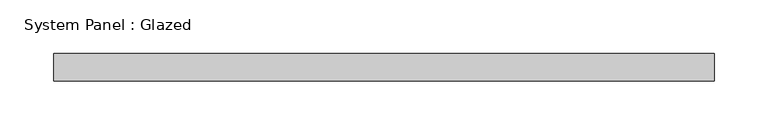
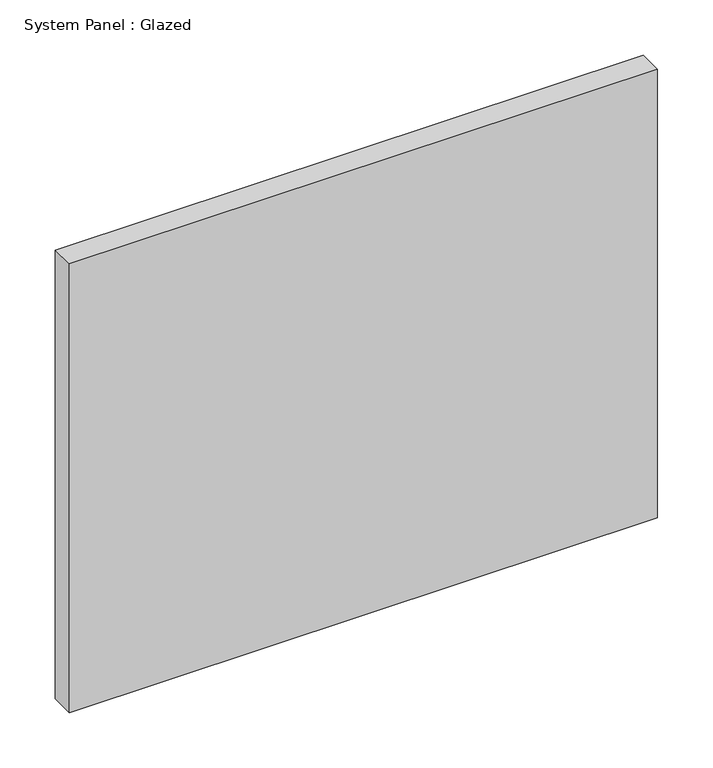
"""IFC4 building model written with IfcOpenShell, lengths in millimetres: plate geometry, System Panel : Glazed."""

from ifc_helpers import new_model, si_unit, origin, origin_with_axes, place, context, project, spatial, polyline, outline, extrude, source, transform, mapped, element, save


def system_panel_glazed_6405e6af(model_context):
    return source(origin(), model_context, "Body", "SweptSolid", [
        extrude(outline(polyline([(306.9228478, -12.7), (-306.9228478, -12.7), (-306.9228478, 12.7), (306.9228478, 12.7), (306.9228478, -12.7)])), origin_with_axes(), (0.0, 0.0, 1.0), 495.3),
    ])


if __name__ == "__main__":
    model = new_model("IFC4")
    model_context = context("Model", 3, world=origin())
    ifc_project = project(units=[si_unit("LENGTHUNIT", "METRE", prefix="MILLI")], contexts=[model_context])
    site = spatial("IfcSite", under=ifc_project)
    building = spatial("IfcBuilding", under=site)
    placement = place(None, origin())
    system_panel_glazed_shape = system_panel_glazed_6405e6af(model_context)
    element("IfcPlate", 1, ObjectType="System Panel : Glazed", at=placement, inside=building, context=model_context, shape_type="MappedRepresentation", body=[
        mapped(system_panel_glazed_shape, transform((0.0, 0.0, 0.0), x_axis=(1.0, 0.0, 0.0), y_axis=(0.0, 1.0, 0.0), z_axis=(0.0, 0.0, 1.0))),
    ])
    save(model, "model.ifc")
